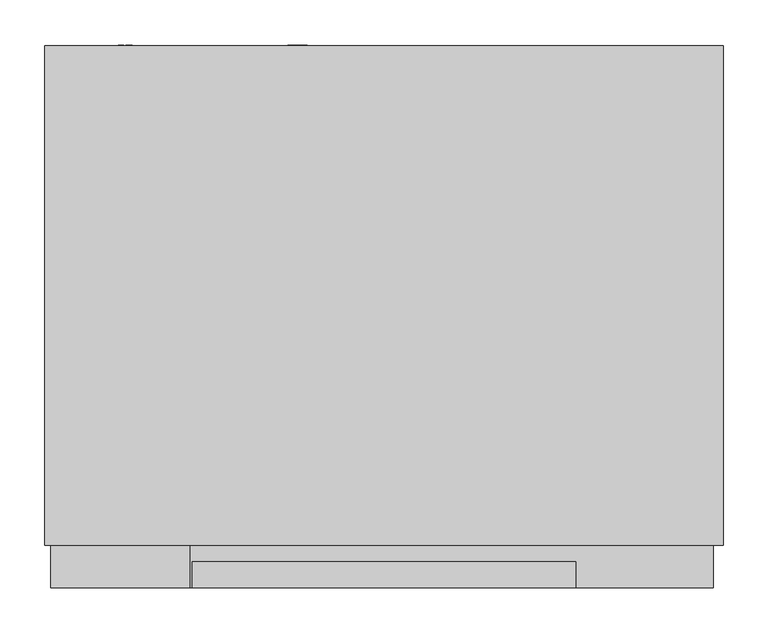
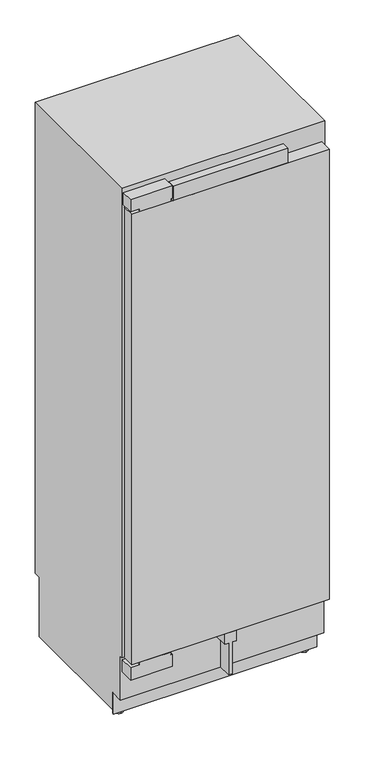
"""IFC4 building model written with IfcOpenShell, lengths in millimetres: proxy geometry, 12366250_EU2_F2813VI : 37281300_EU2_12366250_F2813VI."""

from ifc_helpers import new_model, si_unit, point, frame, frame_2d, origin, place, context, project, spatial, polyline, circle_curve, trimmed, segment, composite_curve, outline, extrude, source, transform, mapped, element, save
from ifc_brep_helpers import plane_surface, cylinder_surface, advanced_brep


def specialty_equipment_1c1f1675(model_context):
    return source(origin(), model_context, "Body", "SolidModel", [
        extrude(outline(polyline([(-367.0, 47.0), (367.0, 47.0), (367.0, 0.0), (-367.0, 0.0), (-367.0, 47.0)])), frame((0.0, 0.0, 265.0), z_axis=(0.0, 0.0, 1.0), x_axis=(1.0, 0.0, 0.0)), (0.0, 0.0, 1.0), 1771.0),
        extrude(outline(polyline([(-213.5, 29.0), (213.5, 29.0), (213.5, 0.0), (-213.5, 0.0), (-213.5, 29.0)])), frame((0.0, 0.0, 2036.0), z_axis=(0.0, 0.0, 1.0), x_axis=(1.0, 0.0, 0.0)), (0.0, 0.0, 1.0), 56.0),
        extrude(outline(polyline([(265.0, 21.0), (265.0, 0.0), (265.0, -21.0), (224.0, -21.0), (224.0, -6.5), (99.0, -6.5), (99.0, 0.0), (99.0, 6.5), (224.0, 6.5), (224.0, 21.0), (265.0, 21.0)])), frame((0.0, 0.0, 0.0), z_axis=(0.0, 1.0, 0.0), x_axis=(0.0, 0.0, 1.0)), (0.0, 0.0, 1.0), 54.0),
        extrude(outline(polyline([(519.0, 1998.0), (519.0, 1791.0), (450.0, 1791.0), (422.0, 1867.0), (201.7448904, 1867.0), (157.0, 1939.0), (87.0, 1949.0), (87.0, 1998.0), (519.0, 1998.0)])), frame((-332.0, 0.0, 0.0), z_axis=(1.0, 0.0, 0.0), x_axis=(0.0, 1.0, 0.0)), (0.0, 0.0, 1.0), 664.0),
        extrude(outline(polyline([(196.9886114, 1875.0), (195.809433, 1875.0), (158.6921935, 1934.4), (159.8713719, 1934.4), (196.9886114, 1875.0)])), frame((-69.0, 0.0, 0.0), z_axis=(1.0, 0.0, 0.0), x_axis=(0.0, 1.0, 0.0)), (0.0, 0.0, 1.0), 138.0),
        extrude(outline(polyline([(46.0510837, -95.101717), (37.4134902, -97.1745179), (46.0453554, -99.6868463), (46.0453554, -101.5601414), (37.4089549, -104.0799633), (46.0493903, -106.1581876), (46.0493903, -107.4649805), (36.0005458, -104.7156324), (36.0005458, -103.372208), (44.8261022, -100.6342221), (35.9987467, -98.0620509), (35.9987287, -96.5451466), (46.0510837, -93.800191), (46.0510837, -95.101717)])), frame((0.0, 604.0, 0.0), z_axis=(0.0, 1.0, 0.0), x_axis=(0.0, 0.0, 1.0)), (0.0, 0.0, 1.0), 1.0),
        extrude(outline(polyline([(46.0485238, -86.7401503), (41.1363122, -86.7401503), (46.0468162, -91.884602), (46.0468162, -93.6328316), (41.9156889, -89.3260313), (36.000035, -93.8032231), (36.000035, -92.2795519), (41.0742849, -88.4391666), (39.4525334, -86.7395503), (35.9999292, -86.7395503), (35.9999292, -85.4795491), (46.0485238, -85.4795491), (46.0485238, -86.7401503)])), frame((0.0, 604.0, 0.0), z_axis=(0.0, 1.0, 0.0), x_axis=(0.0, 0.0, 1.0)), (0.0, 0.0, 1.0), 1.0),
        extrude(outline(composite_curve([segment(trimmed(circle_curve(frame_2d((41.0, -96.0)), 7.5), [point((33.5, -96.0))], [point((48.5, -96.0))], False, "CARTESIAN"), True, "CONTINUOUS"), segment(trimmed(circle_curve(frame_2d((41.0, -96.0)), 7.5), [point((48.5, -96.0))], [point((33.5, -96.0))], False, "CARTESIAN"), True, "CONTINUOUS")], self_intersect=False)), frame((0.0, 577.0, 0.0), z_axis=(0.0, 1.0, 0.0), x_axis=(0.0, 0.0, 1.0)), (0.0, 0.0, 1.0), 27.0),
        extrude(outline(polyline([(2095.0, -371.5), (2047.0, -371.5), (2047.0, -337.5), (2036.5, -337.5), (2036.5, -222.5), (2047.0, -222.5), (2047.0, -216.5), (2095.0, -216.5), (2095.0, -371.5)])), frame((0.0, 0.0, 0.0), z_axis=(0.0, 1.0, 0.0), x_axis=(0.0, 0.0, 1.0)), (0.0, 0.0, 1.0), 47.0),
        extrude(outline(polyline([(254.0, -371.5), (206.0, -371.5), (206.0, -216.5), (254.0, -216.5), (254.0, -222.5), (264.0, -222.5), (264.0, -337.5), (254.0, -337.5), (254.0, -371.5)])), frame((0.0, 0.0, 0.0), z_axis=(0.0, 1.0, 0.0), x_axis=(0.0, 0.0, 1.0)), (0.0, 0.0, 1.0), 54.0),
        extrude(outline(polyline([(99.0373308, -287.7645771), (97.7615342, -287.7645771), (97.7615342, -281.8195541), (94.7968516, -281.8195541), (94.7968516, -287.469579), (93.5246295, -287.469579), (93.5246295, -281.8415693), (90.2570046, -281.8415693), (90.2570046, -287.9619689), (88.9546219, -287.9619689), (88.9546219, -280.5443524), (99.0373308, -280.5443524), (99.0373308, -287.7645771)])), frame((0.0, 604.0, 0.0), z_axis=(0.0, 1.0, 0.0), x_axis=(0.0, 0.0, 1.0)), (0.0, 0.0, 1.0), 1.0),
        extrude(outline(polyline([(99.0458, -291.0619704), (90.2663944, -291.0619704), (90.2663944, -296.1145879), (89.0134802, -296.1145879), (89.0134802, -289.8423809), (99.0458, -289.8423809), (99.0458, -291.0619704)])), frame((0.0, 604.0, 0.0), z_axis=(0.0, 1.0, 0.0), x_axis=(0.0, 0.0, 1.0)), (0.0, 0.0, 1.0), 1.0),
        extrude(outline(composite_curve([segment(trimmed(circle_curve(frame_2d((94.0, -288.0)), 7.5), [point((86.5, -288.0))], [point((101.5, -288.0))], False, "CARTESIAN"), True, "CONTINUOUS"), segment(trimmed(circle_curve(frame_2d((94.0, -288.0)), 7.5), [point((101.5, -288.0))], [point((86.5, -288.0))], False, "CARTESIAN"), True, "CONTINUOUS")], self_intersect=False)), frame((0.0, 577.0, 0.0), z_axis=(0.0, 1.0, 0.0), x_axis=(0.0, 0.0, 1.0)), (0.0, 0.0, 1.0), 27.0),
        extrude(outline(polyline([(-378.0, 104.0), (378.0, 104.0), (378.0, 99.0), (-378.0, 99.0), (-378.0, 104.0)])), frame((0.0, 0.0, 14.0), z_axis=(0.0, 0.0, 1.0), x_axis=(1.0, 0.0, 0.0)), (0.0, 0.0, 1.0), 83.0),
        advanced_brep(
        [(-344.0, 139.0, 0.0), (-344.0, 109.0, 0.0), (-344.0, 139.0, 7.0), (-344.0, 109.0, 7.0), (-344.0, 128.7, 7.0), (-344.0, 119.3, 7.0), (-344.0, 128.7, 28.0), (-344.0, 119.3, 28.0)],
        [
            (0, 1, circle_curve(frame((-344.0, 124.0, 0.0), z_axis=(0.0, 0.0, -1.0), x_axis=(1.0, 0.0, 0.0)), 15.0)),
            (1, 0, circle_curve(frame((-344.0, 124.0, 0.0), z_axis=(0.0, 0.0, -1.0), x_axis=(1.0, 0.0, 0.0)), 15.0)),
            (2, 3, circle_curve(frame((-344.0, 124.0, 7.0), z_axis=(0.0, 0.0, 1.0), x_axis=(1.0, 0.0, 0.0)), 15.0)),
            (3, 2, circle_curve(frame((-344.0, 124.0, 7.0), z_axis=(0.0, 0.0, 1.0), x_axis=(1.0, 0.0, 0.0)), 15.0)),
            (4, 5, circle_curve(frame((-344.0, 124.0, 7.0), z_axis=(0.0, 0.0, -1.0), x_axis=(0.0, -1.0, 0.0)), 4.7)),
            (5, 4, circle_curve(frame((-344.0, 124.0, 7.0), z_axis=(0.0, 0.0, -1.0), x_axis=(0.0, -1.0, 0.0)), 4.7)),
            (0, 2),
            (3, 1),
            (6, 7, circle_curve(frame((-344.0, 124.0, 28.0), z_axis=(0.0, 0.0, 1.0), x_axis=(0.0, -1.0, 0.0)), 4.7)),
            (7, 6, circle_curve(frame((-344.0, 124.0, 28.0), z_axis=(0.0, 0.0, 1.0), x_axis=(0.0, -1.0, 0.0)), 4.7)),
            (7, 5),
            (4, 6),
        ],
        [
            plane_surface(frame((-329.0, 124.0, 0.0), z_axis=(0.0, 0.0, -1.0), x_axis=(0.0, -1.0, 0.0))),
            plane_surface(frame((-329.0, 124.0, 7.0), z_axis=(0.0, 0.0, 1.0), x_axis=(0.0, 1.0, 0.0))),
            cylinder_surface(frame((-344.0, 124.0, 7.0), z_axis=(0.0, 0.0, -1.0), x_axis=(1.0, 0.0, 0.0)), 15.0),
            plane_surface(frame((-344.0, 119.3, 28.0), z_axis=(0.0, 0.0, 1.0), x_axis=(1.0, 0.0, 0.0))),
            cylinder_surface(frame((-344.0, 124.0, 28.0), z_axis=(0.0, 0.0, -1.0), x_axis=(0.0, -1.0, 0.0)), 4.7),
        ],
        [
            (0, [[1, 2]]),
            (1, [[3, 4], [5, 6]]),
            (2, [[-1, 7, -4, 8]]),
            (2, [[-2, -8, -3, -7]]),
            (3, [[9, 10]]),
            (4, [[-10, 11, -5, 12]]),
            (4, [[-9, -12, -6, -11]]),
        ],
    ),
        advanced_brep(
        [(344.0, 139.0, 0.0), (344.0, 109.0, 0.0), (344.0, 139.0, 7.0), (344.0, 109.0, 7.0), (344.0, 128.7, 7.0), (344.0, 119.3, 7.0), (344.0, 128.7, 28.0), (344.0, 119.3, 28.0)],
        [
            (0, 1, circle_curve(frame((344.0, 124.0, 0.0), z_axis=(0.0, 0.0, -1.0), x_axis=(1.0, 0.0, 0.0)), 15.0)),
            (1, 0, circle_curve(frame((344.0, 124.0, 0.0), z_axis=(0.0, 0.0, -1.0), x_axis=(1.0, 0.0, 0.0)), 15.0)),
            (2, 3, circle_curve(frame((344.0, 124.0, 7.0), z_axis=(0.0, 0.0, 1.0), x_axis=(1.0, 0.0, 0.0)), 15.0)),
            (3, 2, circle_curve(frame((344.0, 124.0, 7.0), z_axis=(0.0, 0.0, 1.0), x_axis=(1.0, 0.0, 0.0)), 15.0)),
            (4, 5, circle_curve(frame((344.0, 124.0, 7.0), z_axis=(0.0, 0.0, -1.0), x_axis=(0.0, -1.0, 0.0)), 4.7)),
            (5, 4, circle_curve(frame((344.0, 124.0, 7.0), z_axis=(0.0, 0.0, -1.0), x_axis=(0.0, -1.0, 0.0)), 4.7)),
            (0, 2),
            (3, 1),
            (6, 7, circle_curve(frame((344.0, 124.0, 28.0), z_axis=(0.0, 0.0, 1.0), x_axis=(0.0, -1.0, 0.0)), 4.7)),
            (7, 6, circle_curve(frame((344.0, 124.0, 28.0), z_axis=(0.0, 0.0, 1.0), x_axis=(0.0, -1.0, 0.0)), 4.7)),
            (7, 5),
            (4, 6),
        ],
        [
            plane_surface(frame((-329.0, 124.0, 0.0), z_axis=(0.0, 0.0, -1.0), x_axis=(0.0, -1.0, 0.0))),
            plane_surface(frame((-329.0, 124.0, 7.0), z_axis=(0.0, 0.0, 1.0), x_axis=(0.0, 1.0, 0.0))),
            cylinder_surface(frame((344.0, 124.0, 7.0), z_axis=(0.0, 0.0, -1.0), x_axis=(1.0, 0.0, 0.0)), 15.0),
            plane_surface(frame((-344.0, 119.3, 28.0), z_axis=(0.0, 0.0, 1.0), x_axis=(1.0, 0.0, 0.0))),
            cylinder_surface(frame((344.0, 124.0, 28.0), z_axis=(0.0, 0.0, -1.0), x_axis=(0.0, -1.0, 0.0)), 4.7),
        ],
        [
            (0, [[1, 2]]),
            (1, [[3, 4], [5, 6]]),
            (2, [[-1, 7, -4, 8]]),
            (2, [[-2, -8, -3, -7]]),
            (3, [[9, 10]]),
            (4, [[-10, 11, -5, 12]]),
            (4, [[-9, -12, -6, -11]]),
        ],
    ),
        advanced_brep(
        [(378.0, 47.0, 2114.0), (378.0, 47.0, 267.0), (378.0, 54.0, 267.0), (378.0, 54.0, 97.0), (378.0, 104.0, 97.0), (378.0, 104.0, 28.0), (378.0, 577.0, 28.0), (378.0, 577.0, 263.0), (378.0, 604.0, 263.0), (378.0, 604.0, 2114.0), (-378.0, 47.0, 2114.0), (-378.0, 604.0, 2114.0), (-378.0, 604.0, 263.0), (-378.0, 577.0, 263.0), (-378.0, 577.0, 28.0), (-378.0, 104.0, 28.0), (-378.0, 104.0, 97.0), (-378.0, 54.0, 97.0), (-378.0, 54.0, 267.0), (-378.0, 47.0, 267.0), (318.0, 577.0, 28.0), (318.0, 577.0, 14.0), (-318.0, 577.0, 14.0), (-318.0, 577.0, 28.0), (318.0, 104.0, 14.0), (-318.0, 104.0, 14.0), (-318.0, 104.0, 28.0), (318.0, 104.0, 28.0), (332.0, 47.0, 1998.0), (332.0, 47.0, 343.0), (-332.0, 47.0, 343.0), (-332.0, 47.0, 1998.0), (332.0, 519.0, 1998.0), (-332.0, 519.0, 1998.0), (-332.0, 519.0, 343.0), (332.0, 519.0, 343.0), (-336.5, 202.8193473, 28.0), (-355.5, 202.8193473, 28.0), (-355.5, 153.1806527, 28.0), (-336.5, 153.1806527, 28.0), (-356.0, 525.8193473, 28.0), (-356.0, 476.1806527, 28.0), (-340.0, 476.1806527, 28.0), (-340.0, 525.8193473, 28.0), (355.5, 153.1806527, 28.0), (355.5, 202.8193473, 28.0), (336.5, 202.8193473, 28.0), (336.5, 153.1806527, 28.0), (340.0, 525.8193473, 28.0), (340.0, 476.1806527, 28.0), (356.0, 476.1806527, 28.0), (356.0, 525.8193473, 28.0), (-336.5, 203.0, 25.0), (-336.5, 153.0, 25.0), (-355.5, 153.0, 25.0), (-355.5, 203.0, 25.0), (-336.5, 178.0, 25.0), (-355.5, 178.0, 25.0), (355.5, 178.0, 25.0), (355.5, 153.0, 25.0), (355.5, 203.0, 25.0), (336.5, 203.0, 25.0), (336.5, 153.0, 25.0), (336.5, 178.0, 25.0), (-356.0, 526.0, 25.0), (-356.0, 476.0, 25.0), (-356.0, 501.0, 25.0), (-340.0, 526.0, 25.0), (-340.0, 476.0, 25.0), (-340.0, 501.0, 25.0), (340.0, 526.0, 25.0), (340.0, 476.0, 25.0), (340.0, 501.0, 25.0), (356.0, 526.0, 25.0), (356.0, 476.0, 25.0), (356.0, 501.0, 25.0)],
        [
            (0, 1),
            (1, 2),
            (2, 3),
            (3, 4),
            (4, 5),
            (5, 6),
            (6, 7),
            (7, 8),
            (8, 9),
            (9, 0),
            (10, 11),
            (11, 12),
            (12, 13),
            (13, 14),
            (14, 15),
            (15, 16),
            (16, 17),
            (17, 18),
            (18, 19),
            (19, 10),
            (9, 11),
            (10, 0),
            (8, 12),
            (7, 13),
            (6, 20),
            (20, 21),
            (21, 22),
            (22, 23),
            (23, 14),
            (21, 24),
            (24, 25),
            (25, 22),
            (4, 16),
            (15, 26),
            (26, 25),
            (24, 27),
            (27, 5),
            (3, 17),
            (2, 18),
            (1, 19),
            (28, 29),
            (29, 30),
            (30, 31),
            (31, 28),
            (32, 33),
            (33, 34),
            (34, 35),
            (35, 32),
            (35, 29),
            (28, 32),
            (34, 30),
            (33, 31),
            (23, 26),
            (36, 37),
            (37, 38),
            (38, 39),
            (39, 36),
            (40, 41),
            (41, 42),
            (42, 43),
            (43, 40),
            (27, 20),
            (44, 45),
            (45, 46),
            (46, 47),
            (47, 44),
            (48, 49),
            (49, 50),
            (50, 51),
            (51, 48),
            (52, 53, circle_curve(frame((-336.5, 178.0, 25.0), z_axis=(-1.0, 0.0, 0.0), x_axis=(0.0, -1.0, 0.0)), 25.0)),
            (53, 54),
            (54, 55, circle_curve(frame((-355.5, 178.0, 25.0), z_axis=(1.0, 0.0, 0.0), x_axis=(0.0, -1.0, 0.0)), 25.0)),
            (55, 52),
            (53, 39, circle_curve(frame((-336.5, 178.0, 25.0), z_axis=(-1.0, 0.0, 0.0), x_axis=(0.0, -1.0, 0.0)), 25.0)),
            (38, 54, circle_curve(frame((-355.5, 178.0, 25.0), z_axis=(1.0, 0.0, 0.0), x_axis=(0.0, -1.0, 0.0)), 25.0)),
            (55, 37, circle_curve(frame((-355.5, 178.0, 25.0), z_axis=(1.0, 0.0, 0.0), x_axis=(0.0, -1.0, 0.0)), 25.0)),
            (36, 52, circle_curve(frame((-336.5, 178.0, 25.0), z_axis=(-1.0, 0.0, 0.0), x_axis=(0.0, -1.0, 0.0)), 25.0)),
            (52, 56),
            (56, 53),
            (54, 57),
            (57, 55),
            (58, 59),
            (59, 60, circle_curve(frame((355.5, 178.0, 25.0), z_axis=(1.0, 0.0, 0.0), x_axis=(0.0, -1.0, 0.0)), 25.0)),
            (60, 58),
            (60, 45, circle_curve(frame((355.5, 178.0, 25.0), z_axis=(1.0, 0.0, 0.0), x_axis=(0.0, -1.0, 0.0)), 25.0)),
            (44, 59, circle_curve(frame((355.5, 178.0, 25.0), z_axis=(1.0, 0.0, 0.0), x_axis=(0.0, -1.0, 0.0)), 25.0)),
            (61, 62, circle_curve(frame((336.5, 178.0, 25.0), z_axis=(-1.0, 0.0, 0.0), x_axis=(0.0, -1.0, 0.0)), 25.0)),
            (62, 63),
            (63, 61),
            (62, 47, circle_curve(frame((336.5, 178.0, 25.0), z_axis=(-1.0, 0.0, 0.0), x_axis=(0.0, -1.0, 0.0)), 25.0)),
            (46, 61, circle_curve(frame((336.5, 178.0, 25.0), z_axis=(-1.0, 0.0, 0.0), x_axis=(0.0, -1.0, 0.0)), 25.0)),
            (64, 65, circle_curve(frame((-356.0, 501.0, 25.0), z_axis=(-1.0, 0.0, 0.0), x_axis=(0.0, -1.0, 0.0)), 25.0)),
            (65, 66),
            (66, 64),
            (65, 41, circle_curve(frame((-356.0, 501.0, 25.0), z_axis=(-1.0, 0.0, 0.0), x_axis=(0.0, -1.0, 0.0)), 25.0)),
            (40, 64, circle_curve(frame((-356.0, 501.0, 25.0), z_axis=(-1.0, 0.0, 0.0), x_axis=(0.0, -1.0, 0.0)), 25.0)),
            (64, 67),
            (67, 68, circle_curve(frame((-340.0, 501.0, 25.0), z_axis=(-1.0, 0.0, 0.0), x_axis=(0.0, -1.0, 0.0)), 25.0)),
            (68, 65),
            (43, 67, circle_curve(frame((-340.0, 501.0, 25.0), z_axis=(-1.0, 0.0, 0.0), x_axis=(0.0, -1.0, 0.0)), 25.0)),
            (68, 42, circle_curve(frame((-340.0, 501.0, 25.0), z_axis=(-1.0, 0.0, 0.0), x_axis=(0.0, -1.0, 0.0)), 25.0)),
            (67, 69),
            (69, 68),
            (70, 71, circle_curve(frame((340.0, 501.0, 25.0), z_axis=(-1.0, 0.0, 0.0), x_axis=(0.0, -1.0, 0.0)), 25.0)),
            (71, 72),
            (72, 70),
            (71, 49, circle_curve(frame((340.0, 501.0, 25.0), z_axis=(-1.0, 0.0, 0.0), x_axis=(0.0, -1.0, 0.0)), 25.0)),
            (48, 70, circle_curve(frame((340.0, 501.0, 25.0), z_axis=(-1.0, 0.0, 0.0), x_axis=(0.0, -1.0, 0.0)), 25.0)),
            (70, 73),
            (73, 74, circle_curve(frame((356.0, 501.0, 25.0), z_axis=(-1.0, 0.0, 0.0), x_axis=(0.0, -1.0, 0.0)), 25.0)),
            (74, 71),
            (51, 73, circle_curve(frame((356.0, 501.0, 25.0), z_axis=(-1.0, 0.0, 0.0), x_axis=(0.0, -1.0, 0.0)), 25.0)),
            (74, 50, circle_curve(frame((356.0, 501.0, 25.0), z_axis=(-1.0, 0.0, 0.0), x_axis=(0.0, -1.0, 0.0)), 25.0)),
            (73, 75),
            (75, 74),
            (59, 62),
            (61, 60),
        ],
        [
            plane_surface(frame((378.0, 604.0, 2114.0), z_axis=(1.0, 0.0, 0.0), x_axis=(0.0, -1.0, 0.0))),
            plane_surface(frame((-378.0, 604.0, 2114.0), z_axis=(-1.0, 0.0, 0.0), x_axis=(0.0, 1.0, 0.0))),
            plane_surface(frame((-378.0, 47.0, 2114.0), z_axis=(0.0, 0.0, 1.0), x_axis=(1.0, 0.0, 0.0))),
            plane_surface(frame((-378.0, 604.0, 2114.0), z_axis=(0.0, 1.0, 0.0), x_axis=(1.0, 0.0, 0.0))),
            plane_surface(frame((-378.0, 604.0, 263.0), z_axis=(0.0, 0.0, -1.0), x_axis=(1.0, 0.0, 0.0))),
            plane_surface(frame((-378.0, 577.0, 263.0), z_axis=(0.0, 1.0, 0.0), x_axis=(1.0, 0.0, 0.0))),
            plane_surface(frame((-378.0, 577.0, 14.0), z_axis=(0.0, 0.0, -1.0), x_axis=(1.0, 0.0, 0.0))),
            plane_surface(frame((-378.0, 104.0, 14.0), z_axis=(0.0, -1.0, 0.0), x_axis=(1.0, 0.0, 0.0))),
            plane_surface(frame((-378.0, 104.0, 97.0), z_axis=(0.0, 0.0, -1.0), x_axis=(1.0, 0.0, 0.0))),
            plane_surface(frame((-378.0, 54.0, 97.0), z_axis=(0.0, -1.0, 0.0), x_axis=(1.0, 0.0, 0.0))),
            plane_surface(frame((-378.0, 54.0, 267.0), z_axis=(0.0, 0.0, -1.0), x_axis=(1.0, 0.0, 0.0))),
            plane_surface(frame((-378.0, 47.0, 267.0), z_axis=(0.0, -1.0, 0.0), x_axis=(1.0, 0.0, 0.0))),
            plane_surface(frame((332.0, 519.0, 1998.0), z_axis=(0.0, -1.0, 0.0), x_axis=(0.0, 0.0, -1.0))),
            plane_surface(frame((332.0, 519.0, 1998.0), z_axis=(-1.0, 0.0, 0.0), x_axis=(0.0, -1.0, 0.0))),
            plane_surface(frame((332.0, 519.0, 343.0), z_axis=(0.0, 0.0, 1.0), x_axis=(0.0, -1.0, 0.0))),
            plane_surface(frame((-332.0, 519.0, 343.0), z_axis=(1.0, 0.0, 0.0), x_axis=(0.0, -1.0, 0.0))),
            plane_surface(frame((-332.0, 519.0, 1998.0), z_axis=(0.0, 0.0, -1.0), x_axis=(0.0, -1.0, 0.0))),
            plane_surface(frame((-378.0, 604.0, 28.0), z_axis=(0.0, 0.0, -1.0), x_axis=(-1.0, 0.0, 0.0))),
            plane_surface(frame((-318.0, 104.0, 28.0), z_axis=(-1.0, 0.0, 0.0), x_axis=(0.0, 0.0, -1.0))),
            plane_surface(frame((318.0, 604.0, 28.0), z_axis=(1.0, 0.0, 0.0), x_axis=(0.0, 0.0, -1.0))),
            cylinder_surface(frame((-470.6988927, 178.0, 25.0), z_axis=(1.0, 0.0, 0.0), x_axis=(0.0, -1.0, 0.0)), 25.0),
            plane_surface(frame((-336.5, 178.0, 25.0), z_axis=(1.0, 0.0, 0.0), x_axis=(0.0, -1.0, 0.0))),
            plane_surface(frame((-355.5, 178.0, 25.0), z_axis=(-1.0, 0.0, 0.0), x_axis=(0.0, -1.0, 0.0))),
            plane_surface(frame((355.5, 178.0, 25.0), z_axis=(1.0, 0.0, 0.0), x_axis=(0.0, -1.0, 0.0))),
            plane_surface(frame((336.5, 178.0, 25.0), z_axis=(-1.0, 0.0, 0.0), x_axis=(0.0, -1.0, 0.0))),
            plane_surface(frame((-356.0, 501.0, 25.0), z_axis=(-1.0, 0.0, 0.0), x_axis=(0.0, -1.0, 0.0))),
            cylinder_surface(frame((-470.6988927, 501.0, 25.0), z_axis=(1.0, 0.0, 0.0), x_axis=(0.0, -1.0, 0.0)), 25.0),
            plane_surface(frame((-340.0, 501.0, 25.0), z_axis=(1.0, 0.0, 0.0), x_axis=(0.0, -1.0, 0.0))),
            plane_surface(frame((340.0, 501.0, 25.0), z_axis=(-1.0, 0.0, 0.0), x_axis=(0.0, -1.0, 0.0))),
            plane_surface(frame((356.0, 501.0, 25.0), z_axis=(1.0, 0.0, 0.0), x_axis=(0.0, -1.0, 0.0))),
        ],
        [
            (0, [[1, 2, 3, 4, 5, 6, 7, 8, 9, 10]]),
            (1, [[11, 12, 13, 14, 15, 16, 17, 18, 19, 20]]),
            (2, [[-10, 21, -11, 22]]),
            (3, [[-9, 23, -12, -21]]),
            (4, [[-8, 24, -13, -23]]),
            (5, [[-24, -7, 25, 26, 27, 28, 29, -14]]),
            (6, [[-27, 30, 31, 32]]),
            (7, [[33, -16, 34, 35, -31, 36, 37, -5]]),
            (8, [[-4, 38, -17, -33]]),
            (9, [[-3, 39, -18, -38]]),
            (10, [[-2, 40, -19, -39]]),
            (11, [[-1, -22, -20, -40], [41, 42, 43, 44]]),
            (12, [[45, 46, 47, 48]]),
            (13, [[-48, 49, -41, 50]]),
            (14, [[-47, 51, -42, -49]]),
            (15, [[-46, 52, -43, -51]]),
            (16, [[-45, -50, -44, -52]]),
            (17, [[53, -34, -15, -29], [54, 55, 56, 57], [58, 59, 60, 61]]),
            (17, [[62, -25, -6, -37], [63, 64, 65, 66], [67, 68, 69, 70]]),
            (18, [[-53, -28, -32, -35]]),
            (19, [[-62, -36, -30, -26]]),
            (20, [[71, 72, 73, 74]]),
            (20, [[-72, 75, -56, 76]]),
            (20, [[-74, 77, -54, 78]]),
            (21, [[-71, 79, 80]]),
            (21, [[-80, -79, -78, -57, -75]]),
            (22, [[-73, 81, 82]]),
            (22, [[-81, -76, -55, -77, -82]]),
            (23, [[83, 84, 85]]),
            (23, [[-83, -85, 86, -63, 87]]),
            (24, [[88, 89, 90]]),
            (24, [[-89, 91, -65, 92, -90]]),
            (25, [[93, 94, 95]]),
            (25, [[-94, 96, -58, 97, -95]]),
            (26, [[-93, 98, 99, 100]]),
            (26, [[-98, -97, -61, 101]]),
            (26, [[-100, 102, -59, -96]]),
            (27, [[-99, 103, 104]]),
            (27, [[-104, -103, -101, -60, -102]]),
            (28, [[105, 106, 107]]),
            (28, [[-106, 108, -67, 109, -107]]),
            (26, [[-105, 110, 111, 112]]),
            (26, [[-110, -109, -70, 113]]),
            (26, [[-112, 114, -68, -108]]),
            (29, [[-111, 115, 116]]),
            (29, [[-116, -115, -113, -69, -114]]),
            (20, [[-84, 117, -88, 118]]),
            (20, [[-117, -87, -66, -91]]),
            (20, [[-118, -92, -64, -86]]),
        ],
    ),
    ])


if __name__ == "__main__":
    model = new_model("IFC4")
    model_context = context("Model", 3, world=origin())
    ifc_project = project(units=[si_unit("LENGTHUNIT", "METRE", prefix="MILLI")], contexts=[model_context])
    site = spatial("IfcSite", under=ifc_project)
    building = spatial("IfcBuilding", under=site)
    placement = place(None, origin())
    specialty_equipment_shape = specialty_equipment_1c1f1675(model_context)
    element("IfcBuildingElementProxy", 1, Name="12366250_EU2_F2813VI : 37281300_EU2_12366250_F2813VI", ObjectType="12366250_EU2_F2813VI : 37281300_EU2_12366250_F2813VI", at=placement, inside=building, context=model_context, shape_type="MappedRepresentation", body=[
        mapped(specialty_equipment_shape, transform((0.0, 0.0, 0.0), x_axis=(1.0, 0.0, 0.0), y_axis=(0.0, 1.0, 0.0), z_axis=(0.0, 0.0, 1.0))),
    ])
    save(model, "model.ifc")
